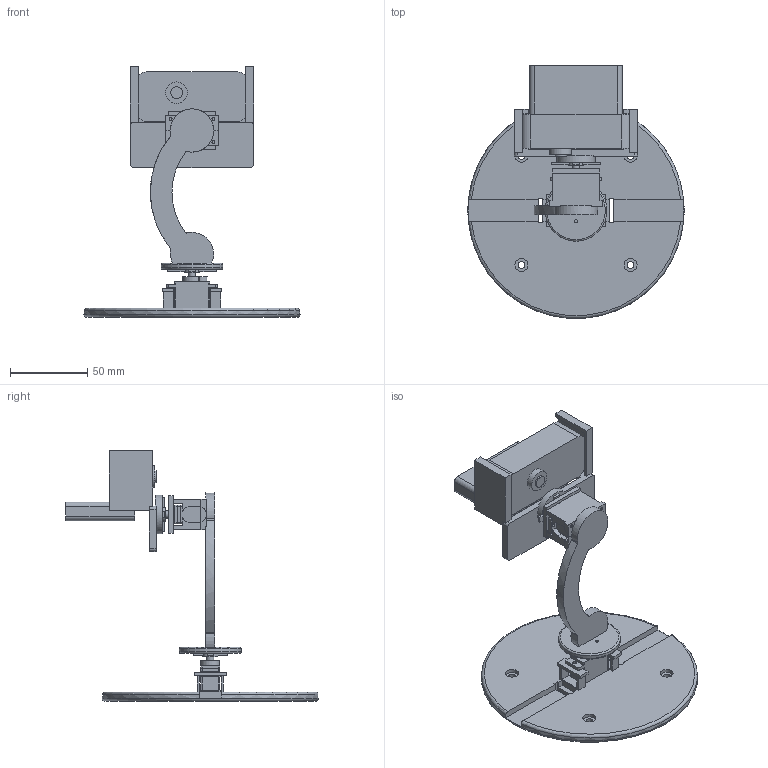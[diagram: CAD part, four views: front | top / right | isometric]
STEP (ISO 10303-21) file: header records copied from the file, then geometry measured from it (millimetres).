
FILE_DESCRIPTION(('Open CASCADE Model'),'2;1');
FILE_NAME('Open CASCADE Shape Model','2026-08-28T21:04:17',('Author'),( 'Open CASCADE'),'Open CASCADE STEP processor 7.8','Open CASCADE 7.8' ,'Unknown');
FILE_SCHEMA(('AUTOMOTIVE_DESIGN { 1 0 10303 214 1 1 1 1 }'));
Length unit declared in the file: millimetre
Products named in the file (11): C270_PanTilt_Full_Assembly_With_Servos; PanServo_StabilityBase; CurvedArm_SG90_TiltHolder; SG90_RetainingCap; Logitech_C270_ScrewlessCradle; SG90_Pan_Body; SG90_Pan_Horn; SG90_Tilt_Body; SG90_Tilt_Horn; C270_Webcam_Body; C270_Fixed_Clip
Assembly tree (10 placements, depth 2):
  C270_PanTilt_Full_Assembly_With_Servos
    PanServo_StabilityBase
    CurvedArm_SG90_TiltHolder
    SG90_RetainingCap
    Logitech_C270_ScrewlessCradle
    SG90_Pan_Body
    SG90_Pan_Horn
    SG90_Tilt_Body
    SG90_Tilt_Horn
    C270_Webcam_Body
    C270_Fixed_Clip
Bounding box: 140 x 163.64 x 162.31 mm (x, y, z)
Volume: 224150 mm3; surface area: 84231.6 mm2
Topology: 10 solids, 10 shells, 342 faces, 918 edges, 609 vertices
Faces by surface type: plane 232, cylinder 97, bspline 8, torus 5
Full cylindrical faces by diameter (mm): 1.8 x4, 1.9 x2, 2 x10, 2.2 x4, 2.4 x4, 3.2 x2, 4 x2, 4.4 x4, 4.7 x2, 7.6 x1, 8.4 x4, 9.6 x2, 14 x1, 21 x1, 25 x1, 40 x1, 140 x1
Entity records: 23665 total; most frequent: CARTESIAN_POINT 5371, DIRECTION 3229, LINE 1851, VECTOR 1851, ORIENTED_EDGE 1836, PCURVE 1836, DEFINITIONAL_REPRESENTATION 1836, EDGE_CURVE 918
